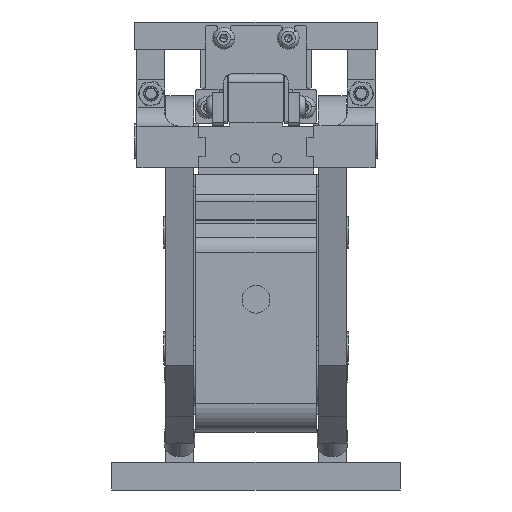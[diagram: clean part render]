
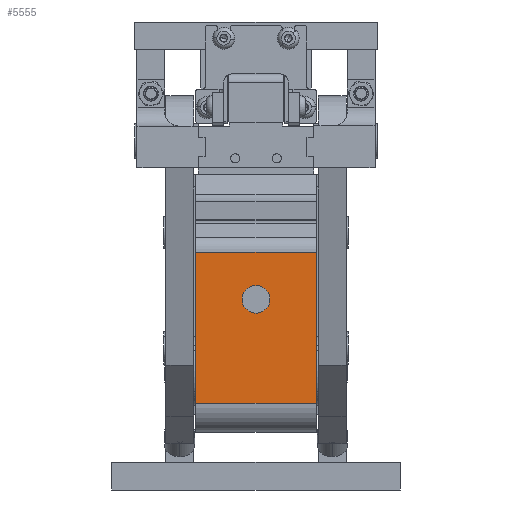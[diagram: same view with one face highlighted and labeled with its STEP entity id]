
A CAD part, left-side view. The second image highlights one B-rep face of the part: STEP entity #5555.
In plain terms, the highlighted planar face has unit normal (-1, 0, 0) as drawn and (0, 1, 0) by its records, which use the part's own axes.
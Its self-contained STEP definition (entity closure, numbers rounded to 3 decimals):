
#599 = CARTESIAN_POINT ( 'NONE',  ( 31., 51.5, 4. ) ) ;
#1876 = VERTEX_POINT ( 'NONE', #24291 ) ;
#2020 = AXIS2_PLACEMENT_3D ( 'NONE', #48679, #2034, #6838 ) ;
#2034 = DIRECTION ( 'NONE',  ( 0., -1., 0. ) ) ;
#2786 = ORIENTED_EDGE ( 'NONE', *, *, #22136, .T. ) ;
#3299 = VERTEX_POINT ( 'NONE', #63802 ) ;
#5555 = ADVANCED_FACE ( 'NONE', ( #58911, #18019 ), #32650, .F. ) ;
#6000 = ORIENTED_EDGE ( 'NONE', *, *, #59216, .F. ) ;
#6054 = EDGE_CURVE ( 'NONE', #38835, #1876, #7243, .T. ) ;
#6838 = DIRECTION ( 'NONE',  ( 0., 0., -1. ) ) ;
#7126 = CARTESIAN_POINT ( 'NONE',  ( -14., 51.5, 26. ) ) ;
#7243 = LINE ( 'NONE', #17440, #34680 ) ;
#12146 = VERTEX_POINT ( 'NONE', #16359 ) ;
#14722 = EDGE_LOOP ( 'NONE', ( #48709, #45769, #6000, #2786 ) ) ;
#15074 = DIRECTION ( 'NONE',  ( 0., 0., -1. ) ) ;
#16359 = CARTESIAN_POINT ( 'NONE',  ( 31., 51.5, -4. ) ) ;
#17440 = CARTESIAN_POINT ( 'NONE',  ( -14., 51.5, 27. ) ) ;
#17876 = ORIENTED_EDGE ( 'NONE', *, *, #32908, .F. ) ;
#18019 = FACE_OUTER_BOUND ( 'NONE', #14722, .T. ) ;
#19047 = CIRCLE ( 'NONE', #66890, 4. ) ;
#20065 = VERTEX_POINT ( 'NONE', #599 ) ;
#22136 = EDGE_CURVE ( 'NONE', #44224, #3299, #42337, .T. ) ;
#22842 = DIRECTION ( 'NONE',  ( 0., 0., -1. ) ) ;
#24291 = CARTESIAN_POINT ( 'NONE',  ( -14., 51.5, -26. ) ) ;
#24579 = LINE ( 'NONE', #45336, #33204 ) ;
#24715 = DIRECTION ( 'NONE',  ( -1., 0., 0. ) ) ;
#25422 = CARTESIAN_POINT ( 'NONE',  ( 51.4, 51.5, 26. ) ) ;
#25623 = DIRECTION ( 'NONE',  ( 0., 1., 0. ) ) ;
#26294 = DIRECTION ( 'NONE',  ( 1., 0., 0. ) ) ;
#29529 = DIRECTION ( 'NONE',  ( 0., 0., -1. ) ) ;
#31745 = AXIS2_PLACEMENT_3D ( 'NONE', #34951, #65302, #29529 ) ;
#32407 = EDGE_LOOP ( 'NONE', ( #66797, #17876 ) ) ;
#32650 = PLANE ( 'NONE',  #2020 ) ;
#32908 = EDGE_CURVE ( 'NONE', #20065, #12146, #45904, .T. ) ;
#32945 = LINE ( 'NONE', #7126, #54494 ) ;
#33204 = VECTOR ( 'NONE', #26294, 1000. ) ;
#34680 = VECTOR ( 'NONE', #22842, 1000. ) ;
#34774 = EDGE_CURVE ( 'NONE', #1876, #3299, #24579, .T. ) ;
#34951 = CARTESIAN_POINT ( 'NONE',  ( 31., 51.5, 0. ) ) ;
#38835 = VERTEX_POINT ( 'NONE', #46506 ) ;
#42337 = LINE ( 'NONE', #63169, #51114 ) ;
#44224 = VERTEX_POINT ( 'NONE', #25422 ) ;
#45336 = CARTESIAN_POINT ( 'NONE',  ( -14., 51.5, -26. ) ) ;
#45769 = ORIENTED_EDGE ( 'NONE', *, *, #6054, .F. ) ;
#45904 = CIRCLE ( 'NONE', #31745, 4. ) ;
#46506 = CARTESIAN_POINT ( 'NONE',  ( -14., 51.5, 26. ) ) ;
#48679 = CARTESIAN_POINT ( 'NONE',  ( -14., 51.5, 27. ) ) ;
#48709 = ORIENTED_EDGE ( 'NONE', *, *, #34774, .F. ) ;
#51114 = VECTOR ( 'NONE', #63500, 1000. ) ;
#54494 = VECTOR ( 'NONE', #24715, 1000. ) ;
#54635 = EDGE_CURVE ( 'NONE', #12146, #20065, #19047, .T. ) ;
#56640 = CARTESIAN_POINT ( 'NONE',  ( 31., 51.5, 0. ) ) ;
#58911 = FACE_BOUND ( 'NONE', #32407, .T. ) ;
#59216 = EDGE_CURVE ( 'NONE', #44224, #38835, #32945, .T. ) ;
#63169 = CARTESIAN_POINT ( 'NONE',  ( 51.4, 51.5, 27. ) ) ;
#63500 = DIRECTION ( 'NONE',  ( 0., 0., -1. ) ) ;
#63802 = CARTESIAN_POINT ( 'NONE',  ( 51.4, 51.5, -26. ) ) ;
#65302 = DIRECTION ( 'NONE',  ( 0., 1., 0. ) ) ;
#66797 = ORIENTED_EDGE ( 'NONE', *, *, #54635, .F. ) ;
#66890 = AXIS2_PLACEMENT_3D ( 'NONE', #56640, #25623, #15074 ) ;
